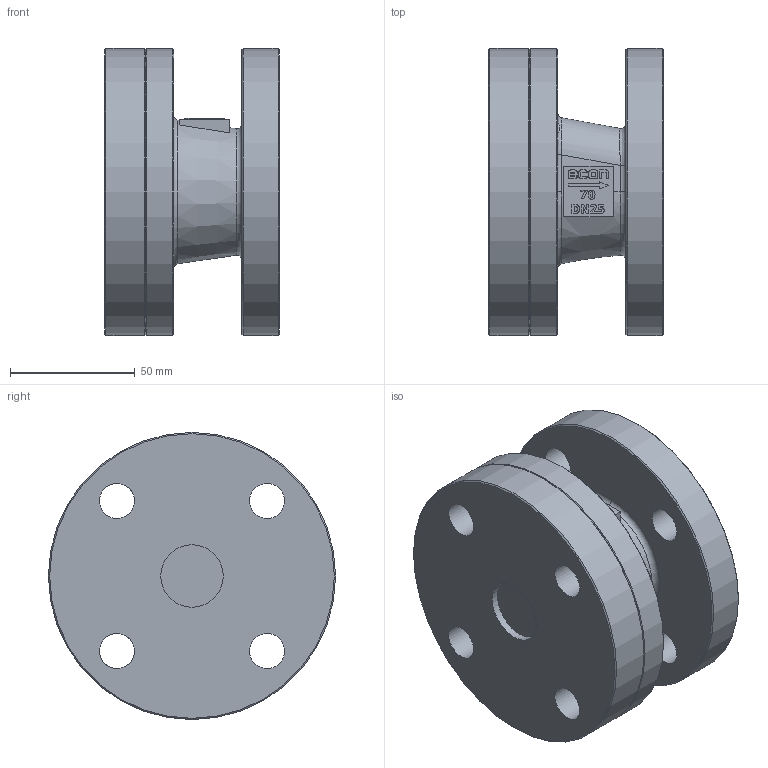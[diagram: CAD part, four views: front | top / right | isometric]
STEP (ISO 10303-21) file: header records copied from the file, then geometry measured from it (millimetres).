
FILE_DESCRIPTION(/* description */ ('Eriks item no: 12160577'),/* implementation_level */ '2;1');
FILE_NAME(/* name */ 'L:\DATA\ENG\Inventor\Econ 3D modellen\terugslagklep\70NGY\70NGY-DN25-PN16-NBR.stp',/* time_stamp */ '2023-12-05T08:15:50+01:00',/* author */ ('roger.thijssen'),/* organization */ (''),/* preprocessor_version */ 'ST-DEVELOPER v18',/* originating_system */ 'Autodesk Inventor 2020',/* authorisation */ '');
FILE_SCHEMA (('CONFIG_CONTROL_DESIGN'));
Length unit declared in the file: millimetre
Products named in the file (1): Check valve, 70NGY-DN25-PN16-NBR
Bounding box: 70 x 115 x 115 mm (x, y, z)
Volume: 483968.8 mm3; surface area: 62014.7 mm2
Topology: 1 solids, 1 shells, 198 faces, 529 edges, 350 vertices
Faces by surface type: plane 109, bspline 46, cylinder 34, cone 7, torus 2
Full cylindrical faces by diameter (mm): 14 x8, 25 x2, 115 x3
Entity records: 6792 total; most frequent: CARTESIAN_POINT 1948, ORIENTED_EDGE 1058, DIRECTION 846, EDGE_CURVE 529, VERTEX_POINT 350, LINE 344, VECTOR 344, AXIS2_PLACEMENT_3D 251
